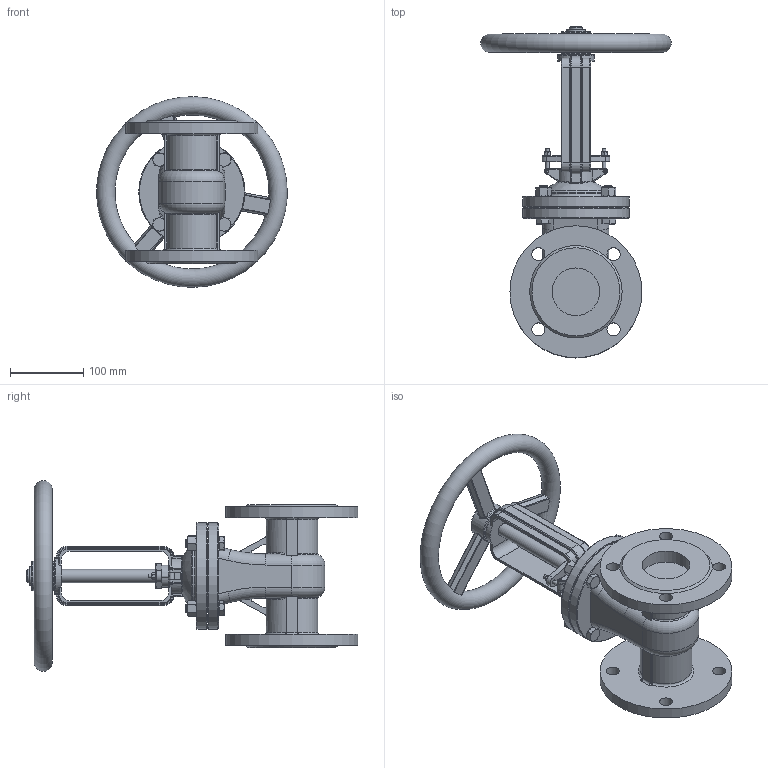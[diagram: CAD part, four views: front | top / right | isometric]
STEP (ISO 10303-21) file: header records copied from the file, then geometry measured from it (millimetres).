
FILE_DESCRIPTION(('STEP AP242'), '1');
FILE_NAME('GVWR2626M-2W-F-S Çàäâèæêà êëèíîâàÿ ñ âûäâèæíûì øòîêîì DN.ru Äó65 Ðó16', '', ('UNSPECIFIED'), ('UNSPECIFIED'), 'C3D Converter', 'C3D Toolkit', '');
FILE_SCHEMA(('AP242_MANAGED_MODEL_BASED_3D_ENGINEERING_MIM_LF { 1 0 10303 442 1 1 4 }'));
Length unit declared in the file: millimetre
Products named in the file (1): GVWR2626M-2W-F-S
Bounding box: 259.71 x 452.5 x 259.84 mm (x, y, z)
Volume: 3127835.4 mm3; surface area: 380112.7 mm2
Topology: 1 solids, 1 shells, 762 faces, 1875 edges, 1130 vertices
Faces by surface type: plane 276, cylinder 194, cone 109, bspline 101, torus 81, sphere 1
Full cylindrical faces by diameter (mm): 3 x4, 5 x4, 8 x2, 12 x8, 18 x14, 20 x1, 25 x1, 30 x1, 40 x2, 50 x2, 65 x2, 90 x2, 145 x2, 180 x2
Entity records: 45787 total; most frequent: CARTESIAN_POINT 22902, ORIENTED_EDGE 3580, DIRECTION 3180, EDGE_CURVE 1790, AXIS2_PLACEMENT_3D 1292, VERTEX_POINT 1125, EDGE_LOOP 909, FACE_BOUND 824
